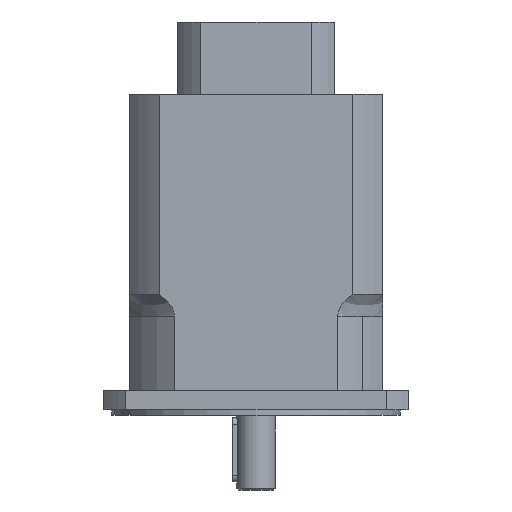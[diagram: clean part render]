
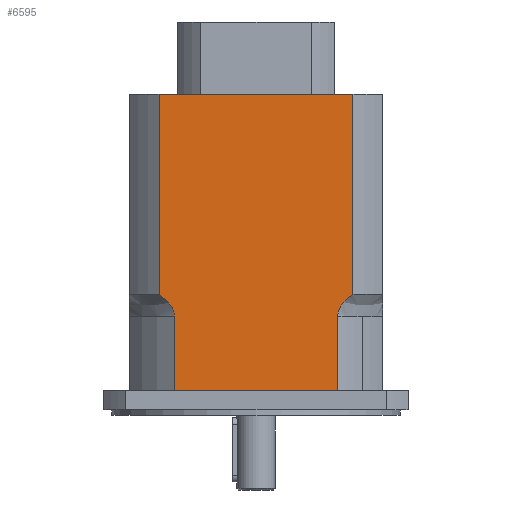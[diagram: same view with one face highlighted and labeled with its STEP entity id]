
A CAD part, front view. The second image highlights one B-rep face of the part: STEP entity #6595.
In plain terms, the highlighted planar face has unit normal (0, -1, 0).
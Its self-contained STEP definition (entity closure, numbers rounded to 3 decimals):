
#2820=CARTESIAN_POINT('',(50.941,-79.,-138.775));
#2821=VERTEX_POINT('',#2820);
#2829=CARTESIAN_POINT('',(50.941,-79.,-185.0));
#2830=VERTEX_POINT('',#2829);
#2831=CARTESIAN_POINT('',(50.941,-79.,-185.0));
#2832=DIRECTION('',(0.0,0.0,1.0));
#2833=VECTOR('',#2832,46.225);
#2834=LINE('',#2831,#2833);
#2835=EDGE_CURVE('',#2830,#2821,#2834,.T.);
#4449=CARTESIAN_POINT('',(-50.941,-79.0,-185.0));
#4450=VERTEX_POINT('',#4449);
#4451=CARTESIAN_POINT('',(50.941,-79.,-185.0));
#4452=DIRECTION('',(-1.0,0.0,0.0));
#4453=VECTOR('',#4452,101.882);
#4454=LINE('',#4451,#4453);
#4455=EDGE_CURVE('',#2830,#4450,#4454,.T.);
#4724=CARTESIAN_POINT('',(60.492,-79.,-125.0));
#4725=VERTEX_POINT('',#4724);
#4733=CARTESIAN_POINT('',(50.941,-79.,-138.775));
#4734=CARTESIAN_POINT('',(50.941,-79.,-138.287));
#4735=CARTESIAN_POINT('',(50.976,-79.,-137.753));
#4736=CARTESIAN_POINT('',(51.128,-79.,-136.695));
#4737=CARTESIAN_POINT('',(51.244,-79.,-136.172));
#4738=CARTESIAN_POINT('',(51.528,-79.,-135.177));
#4739=CARTESIAN_POINT('',(51.73,-79.,-134.613));
#4740=CARTESIAN_POINT('',(52.213,-79.,-133.518));
#4741=CARTESIAN_POINT('',(52.493,-79.,-132.987));
#4742=CARTESIAN_POINT('',(53.514,-79.,-131.264));
#4743=CARTESIAN_POINT('',(54.502,-79.,-130.018));
#4744=CARTESIAN_POINT('',(56.731,-79.,-127.762));
#4745=CARTESIAN_POINT('',(57.969,-79.,-126.748));
#4746=CARTESIAN_POINT('',(59.583,-79.,-125.598));
#4747=CARTESIAN_POINT('',(60.029,-79.,-125.296));
#4748=CARTESIAN_POINT('',(60.492,-79.,-125.0));
#4749=B_SPLINE_CURVE_WITH_KNOTS('',3,(#4733,#4734,#4735,#4736,#4737,#4738,#4739,#4740,#4741,#4742,#4743,#4744,#4745,#4746,#4747,#4748),.UNSPECIFIED.,.F.,.U.,(4,2,2,2,2,2,2,4),(7.235,7.381,7.528,7.691,7.855,8.292,8.729,8.887),.UNSPECIFIED.);
#4750=EDGE_CURVE('',#2821,#4725,#4749,.T.);
#4852=CARTESIAN_POINT('',(-60.492,-79.0,-125.0));
#4853=VERTEX_POINT('',#4852);
#4854=CARTESIAN_POINT('',(-50.941,-79.0,-138.775));
#4855=VERTEX_POINT('',#4854);
#4856=CARTESIAN_POINT('',(-60.492,-79.0,-125.0));
#4857=CARTESIAN_POINT('',(-60.029,-79.0,-125.296));
#4858=CARTESIAN_POINT('',(-59.583,-79.0,-125.598));
#4859=CARTESIAN_POINT('',(-57.969,-79.0,-126.748));
#4860=CARTESIAN_POINT('',(-56.731,-79.0,-127.762));
#4861=CARTESIAN_POINT('',(-54.502,-79.0,-130.018));
#4862=CARTESIAN_POINT('',(-53.514,-79.0,-131.264));
#4863=CARTESIAN_POINT('',(-52.493,-79.0,-132.987));
#4864=CARTESIAN_POINT('',(-52.213,-79.0,-133.518));
#4865=CARTESIAN_POINT('',(-51.73,-79.0,-134.613));
#4866=CARTESIAN_POINT('',(-51.528,-79.0,-135.177));
#4867=CARTESIAN_POINT('',(-51.244,-79.0,-136.172));
#4868=CARTESIAN_POINT('',(-51.128,-79.0,-136.695));
#4869=CARTESIAN_POINT('',(-50.976,-79.0,-137.753));
#4870=CARTESIAN_POINT('',(-50.941,-79.0,-138.287));
#4871=CARTESIAN_POINT('',(-50.941,-79.0,-138.775));
#4872=B_SPLINE_CURVE_WITH_KNOTS('',3,(#4856,#4857,#4858,#4859,#4860,#4861,#4862,#4863,#4864,#4865,#4866,#4867,#4868,#4869,#4870,#4871),.UNSPECIFIED.,.F.,.U.,(4,2,2,2,2,2,2,4),(5.583,5.741,6.178,6.615,6.778,6.942,7.089,7.235),.UNSPECIFIED.);
#4873=EDGE_CURVE('',#4853,#4855,#4872,.T.);
#5071=CARTESIAN_POINT('',(-50.941,-79.0,-138.775));
#5072=DIRECTION('',(0.0,0.0,-1.0));
#5073=VECTOR('',#5072,46.225);
#5074=LINE('',#5071,#5073);
#5075=EDGE_CURVE('',#4855,#4450,#5074,.T.);
#5461=CARTESIAN_POINT('',(-60.492,-79.0,0.0));
#5462=VERTEX_POINT('',#5461);
#5463=CARTESIAN_POINT('',(60.492,-79.,0.0));
#5464=VERTEX_POINT('',#5463);
#5465=CARTESIAN_POINT('',(-60.492,-79.0,0.0));
#5466=DIRECTION('',(1.0,0.0,0.0));
#5467=VECTOR('',#5466,120.983);
#5468=LINE('',#5465,#5467);
#5469=EDGE_CURVE('',#5462,#5464,#5468,.T.);
#6570=CARTESIAN_POINT('',(-60.492,-79.0,0.));
#6571=DIRECTION('',(0.0,-1.0,0.0));
#6572=DIRECTION('',(0.0,0.0,-1.0));
#6573=AXIS2_PLACEMENT_3D('',#6570,#6571,#6572);
#6574=PLANE('',#6573);
#6575=ORIENTED_EDGE('',*,*,#4873,.T.);
#6576=ORIENTED_EDGE('',*,*,#5075,.T.);
#6577=ORIENTED_EDGE('',*,*,#4455,.F.);
#6578=ORIENTED_EDGE('',*,*,#2835,.T.);
#6579=ORIENTED_EDGE('',*,*,#4750,.T.);
#6580=CARTESIAN_POINT('',(60.492,-79.,-125.0));
#6581=DIRECTION('',(0.0,0.0,1.0));
#6582=VECTOR('',#6581,125.0);
#6583=LINE('',#6580,#6582);
#6584=EDGE_CURVE('',#4725,#5464,#6583,.T.);
#6585=ORIENTED_EDGE('',*,*,#6584,.T.);
#6586=ORIENTED_EDGE('',*,*,#5469,.F.);
#6587=CARTESIAN_POINT('',(-60.492,-79.0,-125.0));
#6588=DIRECTION('',(0.0,0.0,1.0));
#6589=VECTOR('',#6588,125.0);
#6590=LINE('',#6587,#6589);
#6591=EDGE_CURVE('',#4853,#5462,#6590,.T.);
#6592=ORIENTED_EDGE('',*,*,#6591,.F.);
#6593=EDGE_LOOP('',(#6575,#6576,#6577,#6578,#6579,#6585,#6586,#6592));
#6594=FACE_OUTER_BOUND('',#6593,.T.);
#6595=ADVANCED_FACE('',(#6594),#6574,.T.);
